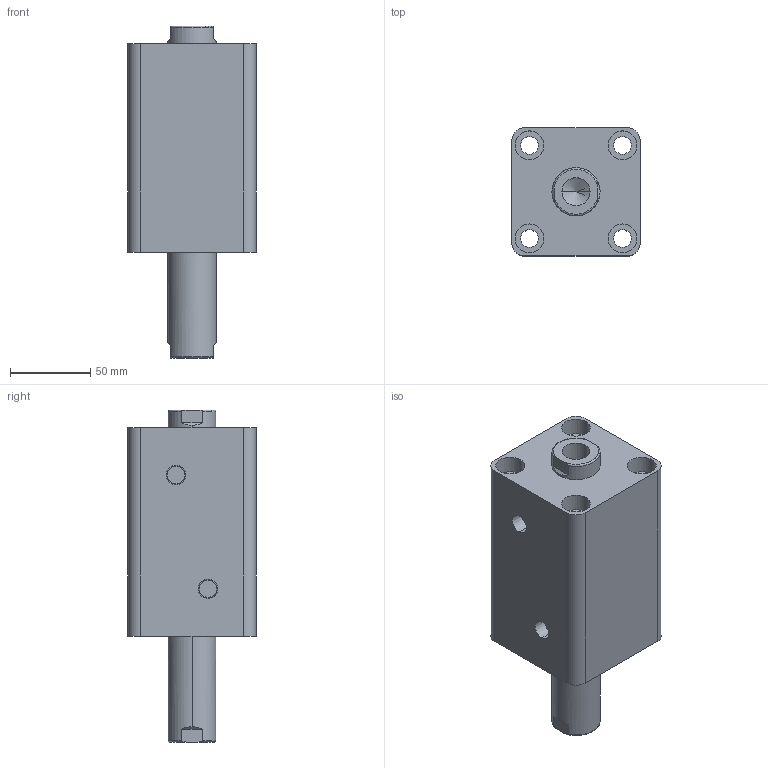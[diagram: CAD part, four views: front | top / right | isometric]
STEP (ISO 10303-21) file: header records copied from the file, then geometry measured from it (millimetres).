
FILE_DESCRIPTION (( 'STEP AP203' ), '1' );
FILE_NAME ('HTB-SW50-55N.STEP', '2019-10-07T09:21:31', ( '微软用户' ), ( '微软中国' ), 'SwSTEP 2.0', 'SolidWorks 2012', '' );
FILE_SCHEMA (( 'CONFIG_CONTROL_DESIGN' ));
Length unit declared in the file: millimetre
Products named in the file (3): HTB-SW50-55N; HTB-SW50-55N活塞杆; HTB-SW50-55掛极
Assembly tree (2 placements, depth 2):
  HTB-SW50-55N
    HTB-SW50-55掛极
    HTB-SW50-55N活塞杆
Bounding box: 80 x 80 x 207 mm (x, y, z)
Volume: 731344.2 mm3; surface area: 117928.8 mm2
Topology: 2 solids, 2 shells, 100 faces, 228 edges, 146 vertices
Faces by surface type: cylinder 48, plane 32, torus 12, cone 8
Entity records: 3237 total; most frequent: CARTESIAN_POINT 595, DIRECTION 542, ORIENTED_EDGE 448, AXIS2_PLACEMENT_3D 229, EDGE_CURVE 224, VERTEX_POINT 146, EDGE_LOOP 128, CIRCLE 124
